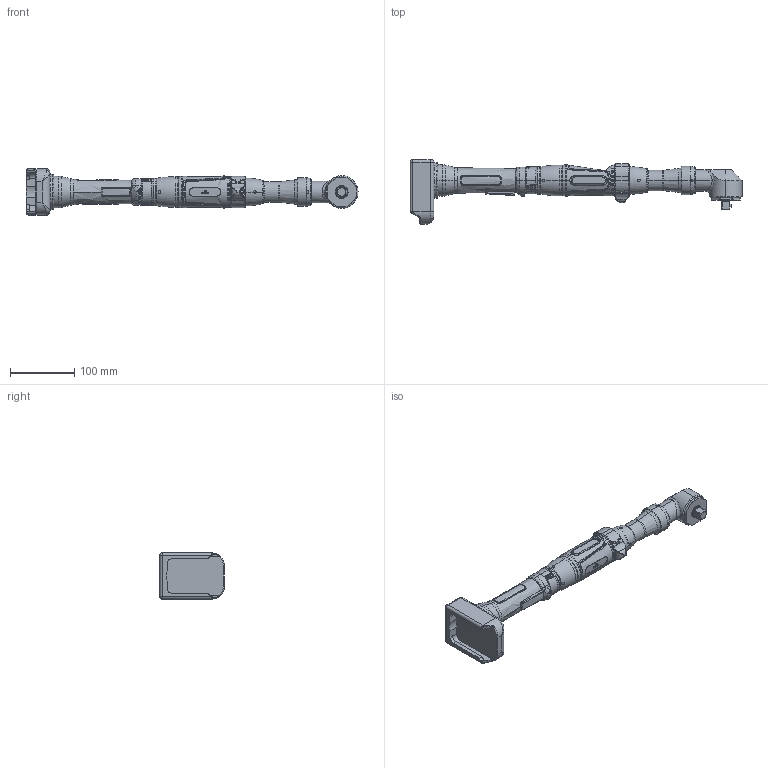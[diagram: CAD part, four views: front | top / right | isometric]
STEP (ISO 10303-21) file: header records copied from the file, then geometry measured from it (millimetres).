
FILE_DESCRIPTION (( 'STEP AP214' ), '1' );
FILE_NAME ('70122795_HSXBW1095WV12B.STEP', '2026-04-01T05:48:07', ( '' ), ( '' ), 'SwSTEP 2.0', 'SolidWorks 2020', '' );
FILE_SCHEMA (( 'AUTOMOTIVE_DESIGN' ));
Length unit declared in the file: millimetre
Products named in the file (1): 70122795_HSXBW1095WV12B
Bounding box: 517.95 x 101 x 72 mm (x, y, z)
Volume: 863311.8 mm3; surface area: 133089.9 mm2
Topology: 14 solids, 14 shells, 1827 faces, 4657 edges, 2907 vertices
Faces by surface type: plane 694, cylinder 499, bspline 327, torus 151, cone 130, sphere 26
Entity records: 99503 total; most frequent: CARTESIAN_POINT 38009, ORIENTED_EDGE 9240, DIRECTION 7784, EDGE_CURVE 4620, AXIS2_PLACEMENT_3D 2965, VERTEX_POINT 2901, EDGE_LOOP 1923, VECTOR 1854
